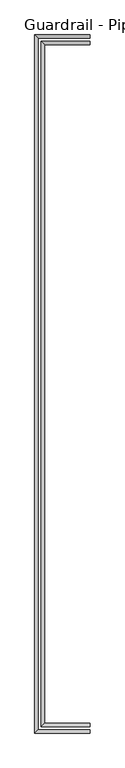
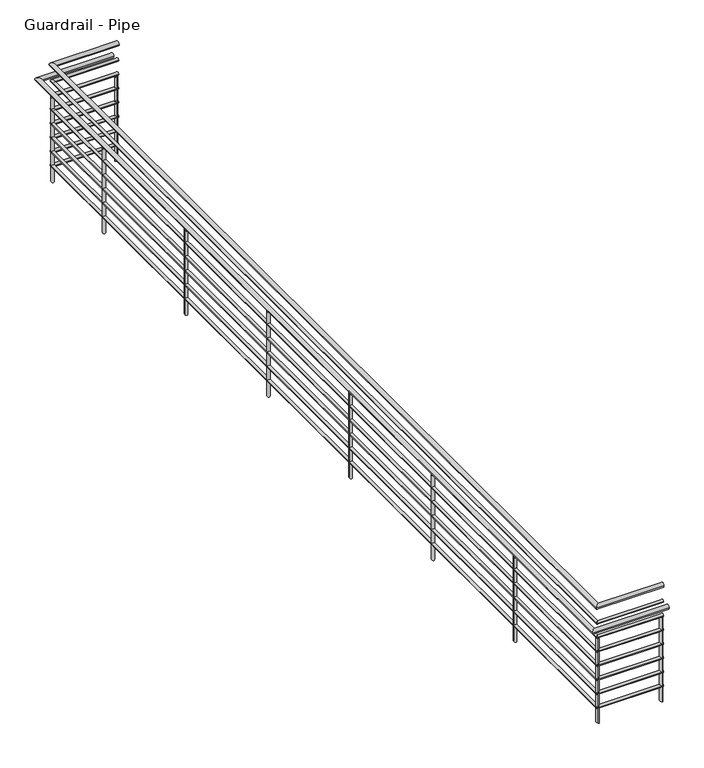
"""IFC4 building model written with IfcOpenShell, lengths in millimetres: railing geometry, Guardrail - Pipe."""

from ifc_helpers import new_model, si_unit, frame, origin, place, context, project, spatial, circle_curve, ellipse_curve, source, transform, mapped, element, save
from ifc_brep_helpers import plane_surface, cylinder_surface, advanced_brep


def guardrail_pipe_d66bd3a1(model_context):
    return source(origin(), model_context, "Body", "AdvancedBrep", [
        advanced_brep(
        [(11534.3313551, 21840.75, 4705.35), (11534.3313551, 21878.85, 4705.35), (10956.4813551, 21840.75, 4705.35), (10994.5813551, 21878.85, 4705.35), (10956.4813551, 29956.05, 4705.35), (10994.5813551, 29917.95, 4705.35), (11534.3313551, 29956.05, 4705.35), (11534.3313551, 29917.95, 4705.35)],
        [
            (0, 1, circle_curve(frame((11534.3313551, 21859.8, 4705.35), z_axis=(1.0, 0.0, 0.0), x_axis=(0.0, 1.0, 0.0)), 19.05)),
            (1, 0, circle_curve(frame((11534.3313551, 21859.8, 4705.35), z_axis=(1.0, 0.0, 0.0), x_axis=(0.0, 1.0, 0.0)), 19.05)),
            (0, 2),
            (2, 3, ellipse_curve(frame((10975.5313551, 21859.8, 4705.35), z_axis=(0.7071067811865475, -0.7071067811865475, 0.0), x_axis=(0.7071067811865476, 0.7071067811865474, 0.0)), 26.9407684, 19.05)),
            (3, 1),
            (3, 2, ellipse_curve(frame((10975.5313551, 21859.8, 4705.35), z_axis=(0.7071067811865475, -0.7071067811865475, 0.0), x_axis=(0.7071067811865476, 0.7071067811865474, 0.0)), 26.9407684, 19.05)),
            (2, 4),
            (4, 5, ellipse_curve(frame((10975.5313551, 29937.0, 4705.35), z_axis=(-0.7071067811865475, -0.7071067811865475, 0.0), x_axis=(0.7071067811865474, -0.7071067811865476, 0.0)), 26.9407684, 19.05)),
            (5, 3),
            (5, 4, ellipse_curve(frame((10975.5313551, 29937.0, 4705.35), z_axis=(-0.7071067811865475, -0.7071067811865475, 0.0), x_axis=(0.7071067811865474, -0.7071067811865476, 0.0)), 26.9407684, 19.05)),
            (6, 7, circle_curve(frame((11534.3313551, 29937.0, 4705.35), z_axis=(1.0, 0.0, 0.0), x_axis=(0.0, -1.0, 0.0)), 19.05)),
            (7, 6, circle_curve(frame((11534.3313551, 29937.0, 4705.35), z_axis=(1.0, 0.0, 0.0), x_axis=(0.0, -1.0, 0.0)), 19.05)),
            (4, 6),
            (7, 5),
        ],
        [
            plane_surface(frame((11534.3313551, 21859.8, 4724.4), z_axis=(1.0, 0.0, 0.0), x_axis=(0.0, -1.0, 0.0))),
            cylinder_surface(frame((11534.3313551, 21859.8, 4705.35), z_axis=(1.0, 0.0, 0.0), x_axis=(0.0, 1.0, 0.0)), 19.05),
            cylinder_surface(frame((10975.5313551, 21859.8, 4705.35), z_axis=(0.0, -1.0, 0.0), x_axis=(1.0, 0.0, 0.0)), 19.05),
            plane_surface(frame((11534.3313551, 29937.0, 4724.4), z_axis=(1.0, 0.0, 0.0), x_axis=(0.0, 1.0, 0.0))),
            cylinder_surface(frame((10975.5313551, 29937.0, 4705.35), z_axis=(-1.0, 0.0, 0.0), x_axis=(0.0, -1.0, 0.0)), 19.05),
        ],
        [
            (0, [[1, 2]]),
            (1, [[-1, 3, 4, 5]]),
            (1, [[-2, -5, 6, -3]]),
            (2, [[-4, 7, 8, 9]]),
            (2, [[-6, -9, 10, -7]]),
            (3, [[11, 12]]),
            (4, [[-8, 13, -12, 14]]),
            (4, [[-10, -14, -11, -13]]),
        ],
    ),
        advanced_brep(
        [(11534.3313551, 21847.1, 4559.3), (11534.3313551, 21872.5, 4559.3), (10962.8313551, 21847.1, 4559.3), (10988.2313551, 21872.5, 4559.3), (10962.8313551, 29949.7, 4559.3), (10988.2313551, 29924.3, 4559.3), (11534.3313551, 29949.7, 4559.3), (11534.3313551, 29924.3, 4559.3)],
        [
            (0, 1, circle_curve(frame((11534.3313551, 21859.8, 4559.3), z_axis=(1.0, 0.0, 0.0), x_axis=(0.0, 1.0, 0.0)), 12.7)),
            (1, 0, circle_curve(frame((11534.3313551, 21859.8, 4559.3), z_axis=(1.0, 0.0, 0.0), x_axis=(0.0, 1.0, 0.0)), 12.7)),
            (0, 2),
            (2, 3, ellipse_curve(frame((10975.5313551, 21859.8, 4559.3), z_axis=(0.7071067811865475, -0.7071067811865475, 0.0), x_axis=(0.7071067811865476, 0.7071067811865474, 0.0)), 17.9605122, 12.7)),
            (3, 1),
            (3, 2, ellipse_curve(frame((10975.5313551, 21859.8, 4559.3), z_axis=(0.7071067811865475, -0.7071067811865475, 0.0), x_axis=(0.7071067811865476, 0.7071067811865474, 0.0)), 17.9605122, 12.7)),
            (2, 4),
            (4, 5, ellipse_curve(frame((10975.5313551, 29937.0, 4559.3), z_axis=(-0.7071067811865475, -0.7071067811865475, 0.0), x_axis=(0.7071067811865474, -0.7071067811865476, 0.0)), 17.9605122, 12.7)),
            (5, 3),
            (5, 4, ellipse_curve(frame((10975.5313551, 29937.0, 4559.3), z_axis=(-0.7071067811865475, -0.7071067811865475, 0.0), x_axis=(0.7071067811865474, -0.7071067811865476, 0.0)), 17.9605122, 12.7)),
            (6, 7, circle_curve(frame((11534.3313551, 29937.0, 4559.3), z_axis=(1.0, 0.0, 0.0), x_axis=(0.0, -1.0, 0.0)), 12.7)),
            (7, 6, circle_curve(frame((11534.3313551, 29937.0, 4559.3), z_axis=(1.0, 0.0, 0.0), x_axis=(0.0, -1.0, 0.0)), 12.7)),
            (4, 6),
            (7, 5),
        ],
        [
            plane_surface(frame((11534.3313551, 21859.8, 4572.0), z_axis=(1.0, 0.0, 0.0), x_axis=(0.0, -1.0, 0.0))),
            cylinder_surface(frame((11534.3313551, 21859.8, 4559.3), z_axis=(1.0, 0.0, 0.0), x_axis=(0.0, 1.0, 0.0)), 12.7),
            cylinder_surface(frame((10975.5313551, 21859.8, 4559.3), z_axis=(0.0, -1.0, 0.0), x_axis=(1.0, 0.0, 0.0)), 12.7),
            plane_surface(frame((11534.3313551, 29937.0, 4572.0), z_axis=(1.0, 0.0, 0.0), x_axis=(0.0, 1.0, 0.0))),
            cylinder_surface(frame((10975.5313551, 29937.0, 4559.3), z_axis=(-1.0, 0.0, 0.0), x_axis=(0.0, -1.0, 0.0)), 12.7),
        ],
        [
            (0, [[1, 2]]),
            (1, [[-1, 3, 4, 5]]),
            (1, [[-2, -5, 6, -3]]),
            (2, [[-4, 7, 8, 9]]),
            (2, [[-6, -9, 10, -7]]),
            (3, [[11, 12]]),
            (4, [[-8, 13, -12, 14]]),
            (4, [[-10, -14, -11, -13]]),
        ],
    ),
        advanced_brep(
        [(11534.3313551, 21764.55, 4552.95), (11534.3313551, 21802.65, 4552.95), (10880.2813551, 21764.55, 4552.95), (10918.3813551, 21802.65, 4552.95), (10880.2813551, 30032.25, 4552.95), (10918.3813551, 29994.15, 4552.95), (11534.3313551, 30032.25, 4552.95), (11534.3313551, 29994.15, 4552.95)],
        [
            (0, 1, circle_curve(frame((11534.3313551, 21783.6, 4552.95), z_axis=(1.0, 0.0, 0.0), x_axis=(0.0, 1.0, 0.0)), 19.05)),
            (1, 0, circle_curve(frame((11534.3313551, 21783.6, 4552.95), z_axis=(1.0, 0.0, 0.0), x_axis=(0.0, 1.0, 0.0)), 19.05)),
            (0, 2),
            (2, 3, ellipse_curve(frame((10899.3313551, 21783.6, 4552.95), z_axis=(0.7071067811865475, -0.7071067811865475, 0.0), x_axis=(0.7071067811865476, 0.7071067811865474, 0.0)), 26.9407684, 19.05)),
            (3, 1),
            (3, 2, ellipse_curve(frame((10899.3313551, 21783.6, 4552.95), z_axis=(0.7071067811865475, -0.7071067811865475, 0.0), x_axis=(0.7071067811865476, 0.7071067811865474, 0.0)), 26.9407684, 19.05)),
            (2, 4),
            (4, 5, ellipse_curve(frame((10899.3313551, 30013.2, 4552.95), z_axis=(-0.7071067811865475, -0.7071067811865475, 0.0), x_axis=(0.7071067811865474, -0.7071067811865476, 0.0)), 26.9407684, 19.05)),
            (5, 3),
            (5, 4, ellipse_curve(frame((10899.3313551, 30013.2, 4552.95), z_axis=(-0.7071067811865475, -0.7071067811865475, 0.0), x_axis=(0.7071067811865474, -0.7071067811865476, 0.0)), 26.9407684, 19.05)),
            (6, 7, circle_curve(frame((11534.3313551, 30013.2, 4552.95), z_axis=(1.0, 0.0, 0.0), x_axis=(0.0, -1.0, 0.0)), 19.05)),
            (7, 6, circle_curve(frame((11534.3313551, 30013.2, 4552.95), z_axis=(1.0, 0.0, 0.0), x_axis=(0.0, -1.0, 0.0)), 19.05)),
            (4, 6),
            (7, 5),
        ],
        [
            plane_surface(frame((11534.3313551, 21783.6, 4572.0), z_axis=(1.0, 0.0, 0.0), x_axis=(0.0, -1.0, 0.0))),
            cylinder_surface(frame((11534.3313551, 21783.6, 4552.95), z_axis=(1.0, 0.0, 0.0), x_axis=(0.0, 1.0, 0.0)), 19.05),
            cylinder_surface(frame((10899.3313551, 21783.6, 4552.95), z_axis=(0.0, -1.0, 0.0), x_axis=(1.0, 0.0, 0.0)), 19.05),
            plane_surface(frame((11534.3313551, 30013.2, 4572.0), z_axis=(1.0, 0.0, 0.0), x_axis=(0.0, 1.0, 0.0))),
            cylinder_surface(frame((10899.3313551, 30013.2, 4552.95), z_axis=(-1.0, 0.0, 0.0), x_axis=(0.0, -1.0, 0.0)), 19.05),
        ],
        [
            (0, [[1, 2]]),
            (1, [[-1, 3, 4, 5]]),
            (1, [[-2, -5, 6, -3]]),
            (2, [[-4, 7, 8, 9]]),
            (2, [[-6, -9, 10, -7]]),
            (3, [[11, 12]]),
            (4, [[-8, 13, -12, 14]]),
            (4, [[-10, -14, -11, -13]]),
        ],
    ),
        advanced_brep(
        [(11534.3313551, 21847.1, 4432.3), (11534.3313551, 21872.5, 4432.3), (10962.8313551, 21847.1, 4432.3), (10988.2313551, 21872.5, 4432.3), (10962.8313551, 29949.7, 4432.3), (10988.2313551, 29924.3, 4432.3), (11534.3313551, 29949.7, 4432.3), (11534.3313551, 29924.3, 4432.3)],
        [
            (0, 1, circle_curve(frame((11534.3313551, 21859.8, 4432.3), z_axis=(1.0, 0.0, 0.0), x_axis=(0.0, 1.0, 0.0)), 12.7)),
            (1, 0, circle_curve(frame((11534.3313551, 21859.8, 4432.3), z_axis=(1.0, 0.0, 0.0), x_axis=(0.0, 1.0, 0.0)), 12.7)),
            (0, 2),
            (2, 3, ellipse_curve(frame((10975.5313551, 21859.8, 4432.3), z_axis=(0.7071067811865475, -0.7071067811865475, 0.0), x_axis=(0.7071067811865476, 0.7071067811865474, 0.0)), 17.9605122, 12.7)),
            (3, 1),
            (3, 2, ellipse_curve(frame((10975.5313551, 21859.8, 4432.3), z_axis=(0.7071067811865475, -0.7071067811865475, 0.0), x_axis=(0.7071067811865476, 0.7071067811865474, 0.0)), 17.9605122, 12.7)),
            (2, 4),
            (4, 5, ellipse_curve(frame((10975.5313551, 29937.0, 4432.3), z_axis=(-0.7071067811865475, -0.7071067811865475, 0.0), x_axis=(0.7071067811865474, -0.7071067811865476, 0.0)), 17.9605122, 12.7)),
            (5, 3),
            (5, 4, ellipse_curve(frame((10975.5313551, 29937.0, 4432.3), z_axis=(-0.7071067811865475, -0.7071067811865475, 0.0), x_axis=(0.7071067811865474, -0.7071067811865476, 0.0)), 17.9605122, 12.7)),
            (6, 7, circle_curve(frame((11534.3313551, 29937.0, 4432.3), z_axis=(1.0, 0.0, 0.0), x_axis=(0.0, -1.0, 0.0)), 12.7)),
            (7, 6, circle_curve(frame((11534.3313551, 29937.0, 4432.3), z_axis=(1.0, 0.0, 0.0), x_axis=(0.0, -1.0, 0.0)), 12.7)),
            (4, 6),
            (7, 5),
        ],
        [
            plane_surface(frame((11534.3313551, 21859.8, 4445.0), z_axis=(1.0, 0.0, 0.0), x_axis=(0.0, -1.0, 0.0))),
            cylinder_surface(frame((11534.3313551, 21859.8, 4432.3), z_axis=(1.0, 0.0, 0.0), x_axis=(0.0, 1.0, 0.0)), 12.7),
            cylinder_surface(frame((10975.5313551, 21859.8, 4432.3), z_axis=(0.0, -1.0, 0.0), x_axis=(1.0, 0.0, 0.0)), 12.7),
            plane_surface(frame((11534.3313551, 29937.0, 4445.0), z_axis=(1.0, 0.0, 0.0), x_axis=(0.0, 1.0, 0.0))),
            cylinder_surface(frame((10975.5313551, 29937.0, 4432.3), z_axis=(-1.0, 0.0, 0.0), x_axis=(0.0, -1.0, 0.0)), 12.7),
        ],
        [
            (0, [[1, 2]]),
            (1, [[-1, 3, 4, 5]]),
            (1, [[-2, -5, 6, -3]]),
            (2, [[-4, 7, 8, 9]]),
            (2, [[-6, -9, 10, -7]]),
            (3, [[11, 12]]),
            (4, [[-8, 13, -12, 14]]),
            (4, [[-10, -14, -11, -13]]),
        ],
    ),
        advanced_brep(
        [(11534.3313551, 21847.1, 4305.3), (11534.3313551, 21872.5, 4305.3), (10962.8313551, 21847.1, 4305.3), (10988.2313551, 21872.5, 4305.3), (10962.8313551, 29949.7, 4305.3), (10988.2313551, 29924.3, 4305.3), (11534.3313551, 29949.7, 4305.3), (11534.3313551, 29924.3, 4305.3)],
        [
            (0, 1, circle_curve(frame((11534.3313551, 21859.8, 4305.3), z_axis=(1.0, 0.0, 0.0), x_axis=(0.0, 1.0, 0.0)), 12.7)),
            (1, 0, circle_curve(frame((11534.3313551, 21859.8, 4305.3), z_axis=(1.0, 0.0, 0.0), x_axis=(0.0, 1.0, 0.0)), 12.7)),
            (0, 2),
            (2, 3, ellipse_curve(frame((10975.5313551, 21859.8, 4305.3), z_axis=(0.7071067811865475, -0.7071067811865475, 0.0), x_axis=(0.7071067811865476, 0.7071067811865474, 0.0)), 17.9605122, 12.7)),
            (3, 1),
            (3, 2, ellipse_curve(frame((10975.5313551, 21859.8, 4305.3), z_axis=(0.7071067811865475, -0.7071067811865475, 0.0), x_axis=(0.7071067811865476, 0.7071067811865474, 0.0)), 17.9605122, 12.7)),
            (2, 4),
            (4, 5, ellipse_curve(frame((10975.5313551, 29937.0, 4305.3), z_axis=(-0.7071067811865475, -0.7071067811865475, 0.0), x_axis=(0.7071067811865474, -0.7071067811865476, 0.0)), 17.9605122, 12.7)),
            (5, 3),
            (5, 4, ellipse_curve(frame((10975.5313551, 29937.0, 4305.3), z_axis=(-0.7071067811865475, -0.7071067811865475, 0.0), x_axis=(0.7071067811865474, -0.7071067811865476, 0.0)), 17.9605122, 12.7)),
            (6, 7, circle_curve(frame((11534.3313551, 29937.0, 4305.3), z_axis=(1.0, 0.0, 0.0), x_axis=(0.0, -1.0, 0.0)), 12.7)),
            (7, 6, circle_curve(frame((11534.3313551, 29937.0, 4305.3), z_axis=(1.0, 0.0, 0.0), x_axis=(0.0, -1.0, 0.0)), 12.7)),
            (4, 6),
            (7, 5),
        ],
        [
            plane_surface(frame((11534.3313551, 21859.8, 4318.0), z_axis=(1.0, 0.0, 0.0), x_axis=(0.0, -1.0, 0.0))),
            cylinder_surface(frame((11534.3313551, 21859.8, 4305.3), z_axis=(1.0, 0.0, 0.0), x_axis=(0.0, 1.0, 0.0)), 12.7),
            cylinder_surface(frame((10975.5313551, 21859.8, 4305.3), z_axis=(0.0, -1.0, 0.0), x_axis=(1.0, 0.0, 0.0)), 12.7),
            plane_surface(frame((11534.3313551, 29937.0, 4318.0), z_axis=(1.0, 0.0, 0.0), x_axis=(0.0, 1.0, 0.0))),
            cylinder_surface(frame((10975.5313551, 29937.0, 4305.3), z_axis=(-1.0, 0.0, 0.0), x_axis=(0.0, -1.0, 0.0)), 12.7),
        ],
        [
            (0, [[1, 2]]),
            (1, [[-1, 3, 4, 5]]),
            (1, [[-2, -5, 6, -3]]),
            (2, [[-4, 7, 8, 9]]),
            (2, [[-6, -9, 10, -7]]),
            (3, [[11, 12]]),
            (4, [[-8, 13, -12, 14]]),
            (4, [[-10, -14, -11, -13]]),
        ],
    ),
        advanced_brep(
        [(11534.3313551, 21847.1, 4178.3), (11534.3313551, 21872.5, 4178.3), (10962.8313551, 21847.1, 4178.3), (10988.2313551, 21872.5, 4178.3), (10962.8313551, 29949.7, 4178.3), (10988.2313551, 29924.3, 4178.3), (11534.3313551, 29949.7, 4178.3), (11534.3313551, 29924.3, 4178.3)],
        [
            (0, 1, circle_curve(frame((11534.3313551, 21859.8, 4178.3), z_axis=(1.0, 0.0, 0.0), x_axis=(0.0, 1.0, 0.0)), 12.7)),
            (1, 0, circle_curve(frame((11534.3313551, 21859.8, 4178.3), z_axis=(1.0, 0.0, 0.0), x_axis=(0.0, 1.0, 0.0)), 12.7)),
            (0, 2),
            (2, 3, ellipse_curve(frame((10975.5313551, 21859.8, 4178.3), z_axis=(0.7071067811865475, -0.7071067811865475, 0.0), x_axis=(0.7071067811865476, 0.7071067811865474, 0.0)), 17.9605122, 12.7)),
            (3, 1),
            (3, 2, ellipse_curve(frame((10975.5313551, 21859.8, 4178.3), z_axis=(0.7071067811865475, -0.7071067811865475, 0.0), x_axis=(0.7071067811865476, 0.7071067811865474, 0.0)), 17.9605122, 12.7)),
            (2, 4),
            (4, 5, ellipse_curve(frame((10975.5313551, 29937.0, 4178.3), z_axis=(-0.7071067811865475, -0.7071067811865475, 0.0), x_axis=(0.7071067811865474, -0.7071067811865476, 0.0)), 17.9605122, 12.7)),
            (5, 3),
            (5, 4, ellipse_curve(frame((10975.5313551, 29937.0, 4178.3), z_axis=(-0.7071067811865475, -0.7071067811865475, 0.0), x_axis=(0.7071067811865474, -0.7071067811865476, 0.0)), 17.9605122, 12.7)),
            (6, 7, circle_curve(frame((11534.3313551, 29937.0, 4178.3), z_axis=(1.0, 0.0, 0.0), x_axis=(0.0, -1.0, 0.0)), 12.7)),
            (7, 6, circle_curve(frame((11534.3313551, 29937.0, 4178.3), z_axis=(1.0, 0.0, 0.0), x_axis=(0.0, -1.0, 0.0)), 12.7)),
            (4, 6),
            (7, 5),
        ],
        [
            plane_surface(frame((11534.3313551, 21859.8, 4191.0), z_axis=(1.0, 0.0, 0.0), x_axis=(0.0, -1.0, 0.0))),
            cylinder_surface(frame((11534.3313551, 21859.8, 4178.3), z_axis=(1.0, 0.0, 0.0), x_axis=(0.0, 1.0, 0.0)), 12.7),
            cylinder_surface(frame((10975.5313551, 21859.8, 4178.3), z_axis=(0.0, -1.0, 0.0), x_axis=(1.0, 0.0, 0.0)), 12.7),
            plane_surface(frame((11534.3313551, 29937.0, 4191.0), z_axis=(1.0, 0.0, 0.0), x_axis=(0.0, 1.0, 0.0))),
            cylinder_surface(frame((10975.5313551, 29937.0, 4178.3), z_axis=(-1.0, 0.0, 0.0), x_axis=(0.0, -1.0, 0.0)), 12.7),
        ],
        [
            (0, [[1, 2]]),
            (1, [[-1, 3, 4, 5]]),
            (1, [[-2, -5, 6, -3]]),
            (2, [[-4, 7, 8, 9]]),
            (2, [[-6, -9, 10, -7]]),
            (3, [[11, 12]]),
            (4, [[-8, 13, -12, 14]]),
            (4, [[-10, -14, -11, -13]]),
        ],
    ),
        advanced_brep(
        [(11534.3313551, 21847.1, 4051.3), (11534.3313551, 21872.5, 4051.3), (10962.8313551, 21847.1, 4051.3), (10988.2313551, 21872.5, 4051.3), (10962.8313551, 29949.7, 4051.3), (10988.2313551, 29924.3, 4051.3), (11534.3313551, 29949.7, 4051.3), (11534.3313551, 29924.3, 4051.3)],
        [
            (0, 1, circle_curve(frame((11534.3313551, 21859.8, 4051.3), z_axis=(1.0, 0.0, 0.0), x_axis=(0.0, 1.0, 0.0)), 12.7)),
            (1, 0, circle_curve(frame((11534.3313551, 21859.8, 4051.3), z_axis=(1.0, 0.0, 0.0), x_axis=(0.0, 1.0, 0.0)), 12.7)),
            (0, 2),
            (2, 3, ellipse_curve(frame((10975.5313551, 21859.8, 4051.3), z_axis=(0.7071067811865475, -0.7071067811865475, 0.0), x_axis=(0.7071067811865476, 0.7071067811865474, 0.0)), 17.9605122, 12.7)),
            (3, 1),
            (3, 2, ellipse_curve(frame((10975.5313551, 21859.8, 4051.3), z_axis=(0.7071067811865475, -0.7071067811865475, 0.0), x_axis=(0.7071067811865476, 0.7071067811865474, 0.0)), 17.9605122, 12.7)),
            (2, 4),
            (4, 5, ellipse_curve(frame((10975.5313551, 29937.0, 4051.3), z_axis=(-0.7071067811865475, -0.7071067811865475, 0.0), x_axis=(0.7071067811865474, -0.7071067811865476, 0.0)), 17.9605122, 12.7)),
            (5, 3),
            (5, 4, ellipse_curve(frame((10975.5313551, 29937.0, 4051.3), z_axis=(-0.7071067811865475, -0.7071067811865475, 0.0), x_axis=(0.7071067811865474, -0.7071067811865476, 0.0)), 17.9605122, 12.7)),
            (6, 7, circle_curve(frame((11534.3313551, 29937.0, 4051.3), z_axis=(1.0, 0.0, 0.0), x_axis=(0.0, -1.0, 0.0)), 12.7)),
            (7, 6, circle_curve(frame((11534.3313551, 29937.0, 4051.3), z_axis=(1.0, 0.0, 0.0), x_axis=(0.0, -1.0, 0.0)), 12.7)),
            (4, 6),
            (7, 5),
        ],
        [
            plane_surface(frame((11534.3313551, 21859.8, 4064.0), z_axis=(1.0, 0.0, 0.0), x_axis=(0.0, -1.0, 0.0))),
            cylinder_surface(frame((11534.3313551, 21859.8, 4051.3), z_axis=(1.0, 0.0, 0.0), x_axis=(0.0, 1.0, 0.0)), 12.7),
            cylinder_surface(frame((10975.5313551, 21859.8, 4051.3), z_axis=(0.0, -1.0, 0.0), x_axis=(1.0, 0.0, 0.0)), 12.7),
            plane_surface(frame((11534.3313551, 29937.0, 4064.0), z_axis=(1.0, 0.0, 0.0), x_axis=(0.0, 1.0, 0.0))),
            cylinder_surface(frame((10975.5313551, 29937.0, 4051.3), z_axis=(-1.0, 0.0, 0.0), x_axis=(0.0, -1.0, 0.0)), 12.7),
        ],
        [
            (0, [[1, 2]]),
            (1, [[-1, 3, 4, 5]]),
            (1, [[-2, -5, 6, -3]]),
            (2, [[-4, 7, 8, 9]]),
            (2, [[-6, -9, 10, -7]]),
            (3, [[11, 12]]),
            (4, [[-8, 13, -12, 14]]),
            (4, [[-10, -14, -11, -13]]),
        ],
    ),
        advanced_brep(
        [(11534.3313551, 21847.1, 3924.3), (11534.3313551, 21872.5, 3924.3), (10962.8313551, 21847.1, 3924.3), (10988.2313551, 21872.5, 3924.3), (10962.8313551, 29949.7, 3924.3), (10988.2313551, 29924.3, 3924.3), (11534.3313551, 29949.7, 3924.3), (11534.3313551, 29924.3, 3924.3)],
        [
            (0, 1, circle_curve(frame((11534.3313551, 21859.8, 3924.3), z_axis=(1.0, 0.0, 0.0), x_axis=(0.0, 1.0, 0.0)), 12.7)),
            (1, 0, circle_curve(frame((11534.3313551, 21859.8, 3924.3), z_axis=(1.0, 0.0, 0.0), x_axis=(0.0, 1.0, 0.0)), 12.7)),
            (0, 2),
            (2, 3, ellipse_curve(frame((10975.5313551, 21859.8, 3924.3), z_axis=(0.7071067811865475, -0.7071067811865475, 0.0), x_axis=(0.7071067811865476, 0.7071067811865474, 0.0)), 17.9605122, 12.7)),
            (3, 1),
            (3, 2, ellipse_curve(frame((10975.5313551, 21859.8, 3924.3), z_axis=(0.7071067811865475, -0.7071067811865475, 0.0), x_axis=(0.7071067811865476, 0.7071067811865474, 0.0)), 17.9605122, 12.7)),
            (2, 4),
            (4, 5, ellipse_curve(frame((10975.5313551, 29937.0, 3924.3), z_axis=(-0.7071067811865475, -0.7071067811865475, 0.0), x_axis=(0.7071067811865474, -0.7071067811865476, 0.0)), 17.9605122, 12.7)),
            (5, 3),
            (5, 4, ellipse_curve(frame((10975.5313551, 29937.0, 3924.3), z_axis=(-0.7071067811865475, -0.7071067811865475, 0.0), x_axis=(0.7071067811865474, -0.7071067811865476, 0.0)), 17.9605122, 12.7)),
            (6, 7, circle_curve(frame((11534.3313551, 29937.0, 3924.3), z_axis=(1.0, 0.0, 0.0), x_axis=(0.0, -1.0, 0.0)), 12.7)),
            (7, 6, circle_curve(frame((11534.3313551, 29937.0, 3924.3), z_axis=(1.0, 0.0, 0.0), x_axis=(0.0, -1.0, 0.0)), 12.7)),
            (4, 6),
            (7, 5),
        ],
        [
            plane_surface(frame((11534.3313551, 21859.8, 3937.0), z_axis=(1.0, 0.0, 0.0), x_axis=(0.0, -1.0, 0.0))),
            cylinder_surface(frame((11534.3313551, 21859.8, 3924.3), z_axis=(1.0, 0.0, 0.0), x_axis=(0.0, 1.0, 0.0)), 12.7),
            cylinder_surface(frame((10975.5313551, 21859.8, 3924.3), z_axis=(0.0, -1.0, 0.0), x_axis=(1.0, 0.0, 0.0)), 12.7),
            plane_surface(frame((11534.3313551, 29937.0, 3937.0), z_axis=(1.0, 0.0, 0.0), x_axis=(0.0, 1.0, 0.0))),
            cylinder_surface(frame((10975.5313551, 29937.0, 3924.3), z_axis=(-1.0, 0.0, 0.0), x_axis=(0.0, -1.0, 0.0)), 12.7),
        ],
        [
            (0, [[1, 2]]),
            (1, [[-1, 3, 4, 5]]),
            (1, [[-2, -5, 6, -3]]),
            (2, [[-4, 7, 8, 9]]),
            (2, [[-6, -9, 10, -7]]),
            (3, [[11, 12]]),
            (4, [[-8, 13, -12, 14]]),
            (4, [[-10, -14, -11, -13]]),
        ],
    ),
        advanced_brep(
        [(11534.3313551, 21847.1, 3797.3), (11534.3313551, 21872.5, 3797.3), (10962.8313551, 21847.1, 3797.3), (10988.2313551, 21872.5, 3797.3), (10962.8313551, 29949.7, 3797.3), (10988.2313551, 29924.3, 3797.3), (11534.3313551, 29949.7, 3797.3), (11534.3313551, 29924.3, 3797.3)],
        [
            (0, 1, circle_curve(frame((11534.3313551, 21859.8, 3797.3), z_axis=(1.0, 0.0, 0.0), x_axis=(0.0, 1.0, 0.0)), 12.7)),
            (1, 0, circle_curve(frame((11534.3313551, 21859.8, 3797.3), z_axis=(1.0, 0.0, 0.0), x_axis=(0.0, 1.0, 0.0)), 12.7)),
            (0, 2),
            (2, 3, ellipse_curve(frame((10975.5313551, 21859.8, 3797.3), z_axis=(0.7071067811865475, -0.7071067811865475, 0.0), x_axis=(0.7071067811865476, 0.7071067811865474, 0.0)), 17.9605122, 12.7)),
            (3, 1),
            (3, 2, ellipse_curve(frame((10975.5313551, 21859.8, 3797.3), z_axis=(0.7071067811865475, -0.7071067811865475, 0.0), x_axis=(0.7071067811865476, 0.7071067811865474, 0.0)), 17.9605122, 12.7)),
            (2, 4),
            (4, 5, ellipse_curve(frame((10975.5313551, 29937.0, 3797.3), z_axis=(-0.7071067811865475, -0.7071067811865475, 0.0), x_axis=(0.7071067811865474, -0.7071067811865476, 0.0)), 17.9605122, 12.7)),
            (5, 3),
            (5, 4, ellipse_curve(frame((10975.5313551, 29937.0, 3797.3), z_axis=(-0.7071067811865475, -0.7071067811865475, 0.0), x_axis=(0.7071067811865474, -0.7071067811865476, 0.0)), 17.9605122, 12.7)),
            (6, 7, circle_curve(frame((11534.3313551, 29937.0, 3797.3), z_axis=(1.0, 0.0, 0.0), x_axis=(0.0, -1.0, 0.0)), 12.7)),
            (7, 6, circle_curve(frame((11534.3313551, 29937.0, 3797.3), z_axis=(1.0, 0.0, 0.0), x_axis=(0.0, -1.0, 0.0)), 12.7)),
            (4, 6),
            (7, 5),
        ],
        [
            plane_surface(frame((11534.3313551, 21859.8, 3810.0), z_axis=(1.0, 0.0, 0.0), x_axis=(0.0, -1.0, 0.0))),
            cylinder_surface(frame((11534.3313551, 21859.8, 3797.3), z_axis=(1.0, 0.0, 0.0), x_axis=(0.0, 1.0, 0.0)), 12.7),
            cylinder_surface(frame((10975.5313551, 21859.8, 3797.3), z_axis=(0.0, -1.0, 0.0), x_axis=(1.0, 0.0, 0.0)), 12.7),
            plane_surface(frame((11534.3313551, 29937.0, 3810.0), z_axis=(1.0, 0.0, 0.0), x_axis=(0.0, 1.0, 0.0))),
            cylinder_surface(frame((10975.5313551, 29937.0, 3797.3), z_axis=(-1.0, 0.0, 0.0), x_axis=(0.0, -1.0, 0.0)), 12.7),
        ],
        [
            (0, [[1, 2]]),
            (1, [[-1, 3, 4, 5]]),
            (1, [[-2, -5, 6, -3]]),
            (2, [[-4, 7, 8, 9]]),
            (2, [[-6, -9, 10, -7]]),
            (3, [[11, 12]]),
            (4, [[-8, 13, -12, 14]]),
            (4, [[-10, -14, -11, -13]]),
        ],
    ),
        advanced_brep(
        [(10988.2313551, 29175.0, 4419.6), (10988.2313551, 29175.0, 3657.6), (10962.8313551, 29175.0, 3657.6), (10962.8313551, 29175.0, 4419.6)],
        [
            (0, 1),
            (1, 2, ellipse_curve(frame((10975.5313551, 29175.0, 3657.6), z_axis=(0.0, -0.536857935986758, 0.8436726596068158), x_axis=(0.0, 0.8436726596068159, 0.536857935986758)), 15.0532317, 12.7)),
            (2, 3),
            (3, 0, ellipse_curve(frame((10975.5313551, 29175.0, 4419.6), z_axis=(0.0, 0.5368579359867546, -0.8436726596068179), x_axis=(0.0, 0.843672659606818, 0.5368579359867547)), 15.0532317, 12.7)),
            (0, 3, ellipse_curve(frame((10975.5313551, 29175.0, 4419.6), z_axis=(0.0, 0.5368579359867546, -0.8436726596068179), x_axis=(0.0, 0.843672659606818, 0.5368579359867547)), 15.0532317, 12.7)),
            (2, 1, ellipse_curve(frame((10975.5313551, 29175.0, 3657.6), z_axis=(0.0, -0.536857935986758, 0.8436726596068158), x_axis=(0.0, 0.8436726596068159, 0.536857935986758)), 15.0532317, 12.7)),
        ],
        [
            cylinder_surface(frame((10975.5313551, 29175.0, 3429.0), z_axis=(0.0, 0.0, 1.0), x_axis=(-1.0, 0.0, 0.0)), 12.7),
            plane_surface(frame((10950.1313551, 29200.4, 4435.7628938), z_axis=(0.0, -0.5368579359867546, 0.8436726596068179), x_axis=(1.0, 0.0, 0.0))),
            plane_surface(frame((10950.1313551, 29149.6, 3641.4371062), z_axis=(0.0, 0.536857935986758, -0.8436726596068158), x_axis=(1.0, 0.0, 0.0))),
        ],
        [
            (0, [[1, 2, 3, 4]]),
            (0, [[-1, 5, -3, 6]]),
            (1, [[-4, -5]]),
            (2, [[-2, -6]]),
        ],
    ),
        advanced_brep(
        [(10988.2313551, 27955.8, 4419.6), (10988.2313551, 27955.8, 3657.6), (10962.8313551, 27955.8, 3657.6), (10962.8313551, 27955.8, 4419.6)],
        [
            (0, 1),
            (1, 2, ellipse_curve(frame((10975.5313551, 27955.8, 3657.6), z_axis=(0.0, -0.536857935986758, 0.8436726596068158), x_axis=(0.0, 0.8436726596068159, 0.536857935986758)), 15.0532317, 12.7)),
            (2, 3),
            (3, 0, ellipse_curve(frame((10975.5313551, 27955.8, 4419.6), z_axis=(0.0, 0.5368579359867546, -0.8436726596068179), x_axis=(0.0, 0.843672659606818, 0.5368579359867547)), 15.0532317, 12.7)),
            (0, 3, ellipse_curve(frame((10975.5313551, 27955.8, 4419.6), z_axis=(0.0, 0.5368579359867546, -0.8436726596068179), x_axis=(0.0, 0.843672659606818, 0.5368579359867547)), 15.0532317, 12.7)),
            (2, 1, ellipse_curve(frame((10975.5313551, 27955.8, 3657.6), z_axis=(0.0, -0.536857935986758, 0.8436726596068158), x_axis=(0.0, 0.8436726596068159, 0.536857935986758)), 15.0532317, 12.7)),
        ],
        [
            cylinder_surface(frame((10975.5313551, 27955.8, 3429.0), z_axis=(0.0, 0.0, 1.0), x_axis=(-1.0, 0.0, 0.0)), 12.7),
            plane_surface(frame((10950.1313551, 27981.2, 4435.7628938), z_axis=(0.0, -0.5368579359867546, 0.8436726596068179), x_axis=(1.0, 0.0, 0.0))),
            plane_surface(frame((10950.1313551, 27930.4, 3641.4371062), z_axis=(0.0, 0.536857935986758, -0.8436726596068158), x_axis=(1.0, 0.0, 0.0))),
        ],
        [
            (0, [[1, 2, 3, 4]]),
            (0, [[-1, 5, -3, 6]]),
            (1, [[-4, -5]]),
            (2, [[-2, -6]]),
        ],
    ),
        advanced_brep(
        [(10988.2313551, 26736.6, 4419.6), (10988.2313551, 26736.6, 3657.6), (10962.8313551, 26736.6, 3657.6), (10962.8313551, 26736.6, 4419.6)],
        [
            (0, 1),
            (1, 2, ellipse_curve(frame((10975.5313551, 26736.6, 3657.6), z_axis=(0.0, -0.536857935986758, 0.8436726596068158), x_axis=(0.0, 0.8436726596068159, 0.536857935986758)), 15.0532317, 12.7)),
            (2, 3),
            (3, 0, ellipse_curve(frame((10975.5313551, 26736.6, 4419.6), z_axis=(0.0, 0.5368579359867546, -0.8436726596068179), x_axis=(0.0, 0.843672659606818, 0.5368579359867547)), 15.0532317, 12.7)),
            (0, 3, ellipse_curve(frame((10975.5313551, 26736.6, 4419.6), z_axis=(0.0, 0.5368579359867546, -0.8436726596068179), x_axis=(0.0, 0.843672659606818, 0.5368579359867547)), 15.0532317, 12.7)),
            (2, 1, ellipse_curve(frame((10975.5313551, 26736.6, 3657.6), z_axis=(0.0, -0.536857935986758, 0.8436726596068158), x_axis=(0.0, 0.8436726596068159, 0.536857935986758)), 15.0532317, 12.7)),
        ],
        [
            cylinder_surface(frame((10975.5313551, 26736.6, 3429.0), z_axis=(0.0, 0.0, 1.0), x_axis=(-1.0, 0.0, 0.0)), 12.7),
            plane_surface(frame((10950.1313551, 26762.0, 4435.7628938), z_axis=(0.0, -0.5368579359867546, 0.8436726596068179), x_axis=(1.0, 0.0, 0.0))),
            plane_surface(frame((10950.1313551, 26711.2, 3641.4371062), z_axis=(0.0, 0.536857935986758, -0.8436726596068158), x_axis=(1.0, 0.0, 0.0))),
        ],
        [
            (0, [[1, 2, 3, 4]]),
            (0, [[-1, 5, -3, 6]]),
            (1, [[-4, -5]]),
            (2, [[-2, -6]]),
        ],
    ),
        advanced_brep(
        [(10988.2313551, 25517.4, 4419.6), (10988.2313551, 25517.4, 3657.6), (10962.8313551, 25517.4, 3657.6), (10962.8313551, 25517.4, 4419.6)],
        [
            (0, 1),
            (1, 2, ellipse_curve(frame((10975.5313551, 25517.4, 3657.6), z_axis=(0.0, -0.536857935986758, 0.8436726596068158), x_axis=(0.0, 0.8436726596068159, 0.536857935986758)), 15.0532317, 12.7)),
            (2, 3),
            (3, 0, ellipse_curve(frame((10975.5313551, 25517.4, 4419.6), z_axis=(0.0, 0.5368579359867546, -0.8436726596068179), x_axis=(0.0, 0.843672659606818, 0.5368579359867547)), 15.0532317, 12.7)),
            (0, 3, ellipse_curve(frame((10975.5313551, 25517.4, 4419.6), z_axis=(0.0, 0.5368579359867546, -0.8436726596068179), x_axis=(0.0, 0.843672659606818, 0.5368579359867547)), 15.0532317, 12.7)),
            (2, 1, ellipse_curve(frame((10975.5313551, 25517.4, 3657.6), z_axis=(0.0, -0.536857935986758, 0.8436726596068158), x_axis=(0.0, 0.8436726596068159, 0.536857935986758)), 15.0532317, 12.7)),
        ],
        [
            cylinder_surface(frame((10975.5313551, 25517.4, 3429.0), z_axis=(0.0, 0.0, 1.0), x_axis=(-1.0, 0.0, 0.0)), 12.7),
            plane_surface(frame((10950.1313551, 25542.8, 4435.7628938), z_axis=(0.0, -0.5368579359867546, 0.8436726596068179), x_axis=(1.0, 0.0, 0.0))),
            plane_surface(frame((10950.1313551, 25492.0, 3641.4371062), z_axis=(0.0, 0.536857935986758, -0.8436726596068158), x_axis=(1.0, 0.0, 0.0))),
        ],
        [
            (0, [[1, 2, 3, 4]]),
            (0, [[-1, 5, -3, 6]]),
            (1, [[-4, -5]]),
            (2, [[-2, -6]]),
        ],
    ),
        advanced_brep(
        [(10988.2313551, 24298.2, 4419.6), (10988.2313551, 24298.2, 3657.6), (10962.8313551, 24298.2, 3657.6), (10962.8313551, 24298.2, 4419.6)],
        [
            (0, 1),
            (1, 2, ellipse_curve(frame((10975.5313551, 24298.2, 3657.6), z_axis=(0.0, -0.536857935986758, 0.8436726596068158), x_axis=(0.0, 0.8436726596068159, 0.536857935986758)), 15.0532317, 12.7)),
            (2, 3),
            (3, 0, ellipse_curve(frame((10975.5313551, 24298.2, 4419.6), z_axis=(0.0, 0.5368579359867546, -0.8436726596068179), x_axis=(0.0, 0.843672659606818, 0.5368579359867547)), 15.0532317, 12.7)),
            (0, 3, ellipse_curve(frame((10975.5313551, 24298.2, 4419.6), z_axis=(0.0, 0.5368579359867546, -0.8436726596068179), x_axis=(0.0, 0.843672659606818, 0.5368579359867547)), 15.0532317, 12.7)),
            (2, 1, ellipse_curve(frame((10975.5313551, 24298.2, 3657.6), z_axis=(0.0, -0.536857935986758, 0.8436726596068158), x_axis=(0.0, 0.8436726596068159, 0.536857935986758)), 15.0532317, 12.7)),
        ],
        [
            cylinder_surface(frame((10975.5313551, 24298.2, 3429.0), z_axis=(0.0, 0.0, 1.0), x_axis=(-1.0, 0.0, 0.0)), 12.7),
            plane_surface(frame((10950.1313551, 24323.6, 4435.7628938), z_axis=(0.0, -0.5368579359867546, 0.8436726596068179), x_axis=(1.0, 0.0, 0.0))),
            plane_surface(frame((10950.1313551, 24272.8, 3641.4371062), z_axis=(0.0, 0.536857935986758, -0.8436726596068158), x_axis=(1.0, 0.0, 0.0))),
        ],
        [
            (0, [[1, 2, 3, 4]]),
            (0, [[-1, 5, -3, 6]]),
            (1, [[-4, -5]]),
            (2, [[-2, -6]]),
        ],
    ),
        advanced_brep(
        [(10988.2313551, 23079.0, 4419.6), (10988.2313551, 23079.0, 3657.6), (10962.8313551, 23079.0, 3657.6), (10962.8313551, 23079.0, 4419.6)],
        [
            (0, 1),
            (1, 2, ellipse_curve(frame((10975.5313551, 23079.0, 3657.6), z_axis=(0.0, -0.536857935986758, 0.8436726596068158), x_axis=(0.0, 0.8436726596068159, 0.536857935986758)), 15.0532317, 12.7)),
            (2, 3),
            (3, 0, ellipse_curve(frame((10975.5313551, 23079.0, 4419.6), z_axis=(0.0, 0.5368579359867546, -0.8436726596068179), x_axis=(0.0, 0.843672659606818, 0.5368579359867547)), 15.0532317, 12.7)),
            (0, 3, ellipse_curve(frame((10975.5313551, 23079.0, 4419.6), z_axis=(0.0, 0.5368579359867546, -0.8436726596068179), x_axis=(0.0, 0.843672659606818, 0.5368579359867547)), 15.0532317, 12.7)),
            (2, 1, ellipse_curve(frame((10975.5313551, 23079.0, 3657.6), z_axis=(0.0, -0.536857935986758, 0.8436726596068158), x_axis=(0.0, 0.8436726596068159, 0.536857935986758)), 15.0532317, 12.7)),
        ],
        [
            cylinder_surface(frame((10975.5313551, 23079.0, 3429.0), z_axis=(0.0, 0.0, 1.0), x_axis=(-1.0, 0.0, 0.0)), 12.7),
            plane_surface(frame((10950.1313551, 23104.4, 4435.7628938), z_axis=(0.0, -0.5368579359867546, 0.8436726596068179), x_axis=(1.0, 0.0, 0.0))),
            plane_surface(frame((10950.1313551, 23053.6, 3641.4371062), z_axis=(0.0, 0.536857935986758, -0.8436726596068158), x_axis=(1.0, 0.0, 0.0))),
        ],
        [
            (0, [[1, 2, 3, 4]]),
            (0, [[-1, 5, -3, 6]]),
            (1, [[-4, -5]]),
            (2, [[-2, -6]]),
        ],
    ),
        advanced_brep(
        [(10988.2313551, 29937.0, 4419.6), (10988.2313551, 29937.0, 3657.6), (10962.8313551, 29937.0, 3657.6), (10962.8313551, 29937.0, 4419.6)],
        [
            (0, 1),
            (1, 2, ellipse_curve(frame((10975.5313551, 29937.0, 3657.6), z_axis=(0.0, -0.536857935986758, 0.8436726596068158), x_axis=(0.0, 0.8436726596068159, 0.536857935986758)), 15.0532317, 12.7)),
            (2, 3),
            (3, 0, ellipse_curve(frame((10975.5313551, 29937.0, 4419.6), z_axis=(0.0, 0.5368579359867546, -0.8436726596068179), x_axis=(0.0, 0.843672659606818, 0.5368579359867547)), 15.0532317, 12.7)),
            (0, 3, ellipse_curve(frame((10975.5313551, 29937.0, 4419.6), z_axis=(0.0, 0.5368579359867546, -0.8436726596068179), x_axis=(0.0, 0.843672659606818, 0.5368579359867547)), 15.0532317, 12.7)),
            (2, 1, ellipse_curve(frame((10975.5313551, 29937.0, 3657.6), z_axis=(0.0, -0.536857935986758, 0.8436726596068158), x_axis=(0.0, 0.8436726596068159, 0.536857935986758)), 15.0532317, 12.7)),
        ],
        [
            cylinder_surface(frame((10975.5313551, 29937.0, 3429.0), z_axis=(0.0, 0.0, 1.0), x_axis=(-1.0, 0.0, 0.0)), 12.7),
            plane_surface(frame((10950.1313551, 29962.4, 4435.7628938), z_axis=(0.0, -0.5368579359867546, 0.8436726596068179), x_axis=(1.0, 0.0, 0.0))),
            plane_surface(frame((10950.1313551, 29911.6, 3641.4371062), z_axis=(0.0, 0.536857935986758, -0.8436726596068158), x_axis=(1.0, 0.0, 0.0))),
        ],
        [
            (0, [[1, 2, 3, 4]]),
            (0, [[-1, 5, -3, 6]]),
            (1, [[-4, -5]]),
            (2, [[-2, -6]]),
        ],
    ),
        advanced_brep(
        [(10975.5313551, 21872.5, 4419.6), (10975.5313551, 21872.5, 3657.6), (10975.5313551, 21847.1, 3657.6), (10975.5313551, 21847.1, 4419.6)],
        [
            (0, 1),
            (1, 2, ellipse_curve(frame((10975.5313551, 21859.8, 3657.6), z_axis=(0.536857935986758, 0.0, 0.8436726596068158), x_axis=(-0.8436726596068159, 0.0, 0.536857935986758)), 15.0532317, 12.7)),
            (2, 3),
            (3, 0, ellipse_curve(frame((10975.5313551, 21859.8, 4419.6), z_axis=(-0.5368579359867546, 0.0, -0.8436726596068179), x_axis=(-0.843672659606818, 0.0, 0.5368579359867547)), 15.0532317, 12.7)),
            (0, 3, ellipse_curve(frame((10975.5313551, 21859.8, 4419.6), z_axis=(-0.5368579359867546, 0.0, -0.8436726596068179), x_axis=(-0.843672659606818, 0.0, 0.5368579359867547)), 15.0532317, 12.7)),
            (2, 1, ellipse_curve(frame((10975.5313551, 21859.8, 3657.6), z_axis=(0.536857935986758, 0.0, 0.8436726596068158), x_axis=(-0.8436726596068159, 0.0, 0.536857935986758)), 15.0532317, 12.7)),
        ],
        [
            cylinder_surface(frame((10975.5313551, 21859.8, 3429.0), z_axis=(0.0, 0.0, 1.0), x_axis=(0.0, -1.0, 0.0)), 12.7),
            plane_surface(frame((10950.1313551, 21834.4, 4435.7628938), z_axis=(0.5368579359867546, 0.0, 0.8436726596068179), x_axis=(0.0, 1.0, 0.0))),
            plane_surface(frame((11000.9313551, 21834.4, 3641.4371062), z_axis=(-0.536857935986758, 0.0, -0.8436726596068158), x_axis=(0.0, 1.0, 0.0))),
        ],
        [
            (0, [[1, 2, 3, 4]]),
            (0, [[-1, 5, -3, 6]]),
            (1, [[-4, -5]]),
            (2, [[-2, -6]]),
        ],
    ),
        advanced_brep(
        [(11521.6313551, 29924.3, 4419.6), (11521.6313551, 29924.3, 3657.6), (11521.6313551, 29949.7, 3657.6), (11521.6313551, 29949.7, 4419.6)],
        [
            (0, 1),
            (1, 2, ellipse_curve(frame((11521.6313551, 29937.0, 3657.6), z_axis=(-0.536857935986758, 0.0, 0.8436726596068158), x_axis=(0.8436726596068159, 0.0, 0.536857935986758)), 15.0532317, 12.7)),
            (2, 3),
            (3, 0, ellipse_curve(frame((11521.6313551, 29937.0, 4419.6), z_axis=(0.5368579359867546, 0.0, -0.8436726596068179), x_axis=(0.843672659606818, 0.0, 0.5368579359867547)), 15.0532317, 12.7)),
            (0, 3, ellipse_curve(frame((11521.6313551, 29937.0, 4419.6), z_axis=(0.5368579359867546, 0.0, -0.8436726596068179), x_axis=(0.843672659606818, 0.0, 0.5368579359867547)), 15.0532317, 12.7)),
            (2, 1, ellipse_curve(frame((11521.6313551, 29937.0, 3657.6), z_axis=(-0.536857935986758, 0.0, 0.8436726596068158), x_axis=(0.8436726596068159, 0.0, 0.536857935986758)), 15.0532317, 12.7)),
        ],
        [
            cylinder_surface(frame((11521.6313551, 29937.0, 3429.0), z_axis=(0.0, 0.0, 1.0), x_axis=(0.0, 1.0, 0.0)), 12.7),
            plane_surface(frame((11547.0313551, 29962.4, 4435.7628938), z_axis=(-0.5368579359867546, 0.0, 0.8436726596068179), x_axis=(0.0, -1.0, 0.0))),
            plane_surface(frame((11496.2313551, 29962.4, 3641.4371062), z_axis=(0.536857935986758, 0.0, -0.8436726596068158), x_axis=(0.0, -1.0, 0.0))),
        ],
        [
            (0, [[1, 2, 3, 4]]),
            (0, [[-1, 5, -3, 6]]),
            (1, [[-4, -5]]),
            (2, [[-2, -6]]),
        ],
    ),
        advanced_brep(
        [(11521.6313551, 21872.5, 4419.6), (11521.6313551, 21872.5, 3657.6), (11521.6313551, 21847.1, 3657.6), (11521.6313551, 21847.1, 4419.6)],
        [
            (0, 1),
            (1, 2, ellipse_curve(frame((11521.6313551, 21859.8, 3657.6), z_axis=(0.536857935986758, 0.0, 0.8436726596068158), x_axis=(-0.8436726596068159, 0.0, 0.536857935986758)), 15.0532317, 12.7)),
            (2, 3),
            (3, 0, ellipse_curve(frame((11521.6313551, 21859.8, 4419.6), z_axis=(-0.5368579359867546, 0.0, -0.8436726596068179), x_axis=(-0.843672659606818, 0.0, 0.5368579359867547)), 15.0532317, 12.7)),
            (0, 3, ellipse_curve(frame((11521.6313551, 21859.8, 4419.6), z_axis=(-0.5368579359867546, 0.0, -0.8436726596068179), x_axis=(-0.843672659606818, 0.0, 0.5368579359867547)), 15.0532317, 12.7)),
            (2, 1, ellipse_curve(frame((11521.6313551, 21859.8, 3657.6), z_axis=(0.536857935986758, 0.0, 0.8436726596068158), x_axis=(-0.8436726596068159, 0.0, 0.536857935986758)), 15.0532317, 12.7)),
        ],
        [
            cylinder_surface(frame((11521.6313551, 21859.8, 3429.0), z_axis=(0.0, 0.0, 1.0), x_axis=(0.0, -1.0, 0.0)), 12.7),
            plane_surface(frame((11496.2313551, 21834.4, 4435.7628938), z_axis=(0.5368579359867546, 0.0, 0.8436726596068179), x_axis=(0.0, 1.0, 0.0))),
            plane_surface(frame((11547.0313551, 21834.4, 3641.4371062), z_axis=(-0.536857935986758, 0.0, -0.8436726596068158), x_axis=(0.0, 1.0, 0.0))),
        ],
        [
            (0, [[1, 2, 3, 4]]),
            (0, [[-1, 5, -3, 6]]),
            (1, [[-4, -5]]),
            (2, [[-2, -6]]),
        ],
    ),
    ])


if __name__ == "__main__":
    model = new_model("IFC4")
    model_context = context("Model", 3, world=origin())
    ifc_project = project(units=[si_unit("LENGTHUNIT", "METRE", prefix="MILLI")], contexts=[model_context])
    site = spatial("IfcSite", under=ifc_project)
    building = spatial("IfcBuilding", under=site)
    placement = place(None, origin())
    guardrail_pipe_shape = guardrail_pipe_d66bd3a1(model_context)
    element("IfcRailing", 1, ObjectType="Guardrail - Pipe", at=placement, inside=building, context=model_context, shape_type="MappedRepresentation", body=[
        mapped(guardrail_pipe_shape, transform((0.0, 0.0, 0.0), x_axis=(1.0, 0.0, 0.0), y_axis=(0.0, 1.0, 0.0), z_axis=(0.0, 0.0, 1.0))),
    ])
    save(model, "model.ifc")
